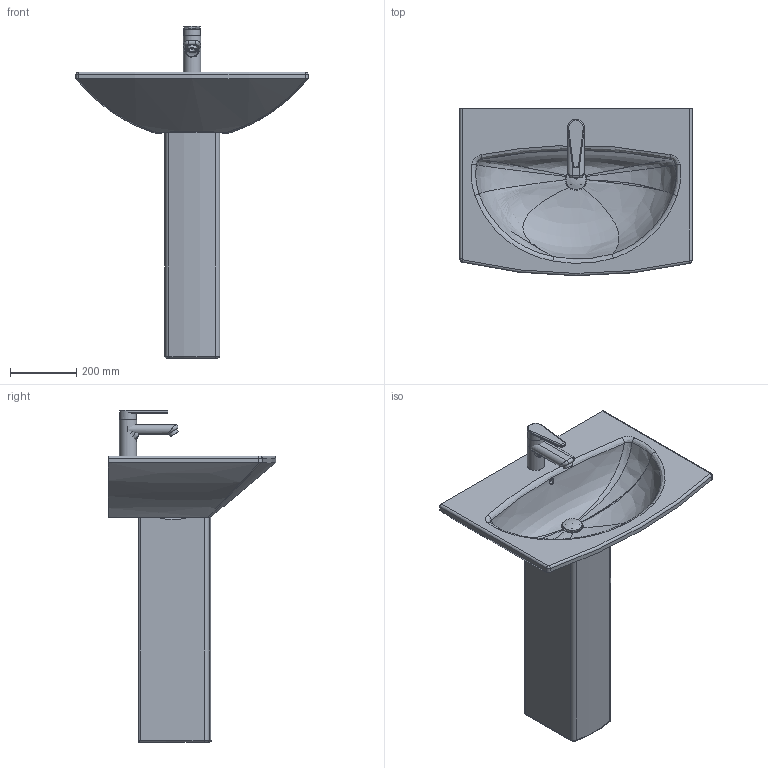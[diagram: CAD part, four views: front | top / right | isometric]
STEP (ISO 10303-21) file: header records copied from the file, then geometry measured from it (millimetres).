
FILE_DESCRIPTION((''),'2;1');
FILE_NAME('C:\Dokumente und Einstellungen\Huebner\Eigene Dateien\PRIVAT3\3D\CARO\CARO_STEP\043470_086321.stp','2008-01-14T18:00:47',('Huebner'),(''),'Autodesk Inventor 11','Autodesk Inventor 11','');
FILE_SCHEMA(('AUTOMOTIVE_DESIGN { 1 0 10303 214 1 1 1 1 }'));
Length unit declared in the file: millimetre
Products named in the file (11): 43470_86321; 43470; Kelch; Stopfen; Baterie_CARO_Wasch; hebel1; Neoperl; Hebel2; hebel4; hebel5Kugel; 86321
Assembly tree (10 placements, depth 3):
  43470_86321
    43470
    Kelch
    Stopfen
    Baterie_CARO_Wasch
      hebel1
      Neoperl
      Hebel2
      hebel4
      hebel5Kugel
    86321
Bounding box: 700 x 505 x 1001.1 mm (x, y, z)
Volume: 27994713.8 mm3; surface area: 2046098.8 mm2
Topology: 9 solids, 9 shells, 223 faces, 532 edges, 325 vertices
Faces by surface type: cylinder 80, plane 63, bspline 47, torus 24, sphere 5, cone 4
Full cylindrical faces by diameter (mm): 15 x3, 20 x1, 29 x1, 30 x2, 42 x1, 44 x1, 46 x1, 50 x1, 52 x2, 60 x1, 75 x1
Entity records: 13715 total; most frequent: CARTESIAN_POINT 8635, ORIENTED_EDGE 990, DIRECTION 989, EDGE_CURVE 495, AXIS2_PLACEMENT_3D 403, VERTEX_POINT 318, EDGE_LOOP 261, FACE_OUTER_BOUND 223
